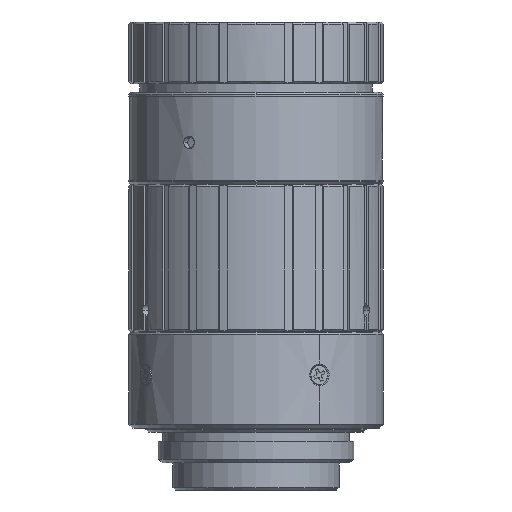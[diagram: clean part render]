
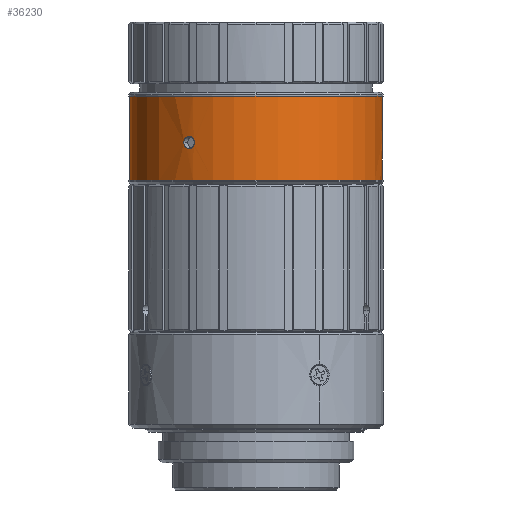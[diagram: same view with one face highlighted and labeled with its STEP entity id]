
A CAD part, front view. The second image highlights one B-rep face of the part: STEP entity #36230.
In plain terms, the highlighted cylindrical face has radius 16.35 mm (diameter 32.7 mm), a partial arc.
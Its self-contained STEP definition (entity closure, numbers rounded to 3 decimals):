
#35180=CARTESIAN_POINT('',(0.,0.,-60.467));
#35190=DIRECTION('',(0.,0.,1.));
#35200=DIRECTION('',(1.,0.,0.));
#35210=AXIS2_PLACEMENT_3D('',#35180,#35190,#35200);
#35220=CIRCLE('',#35210,16.35);
#35230=CARTESIAN_POINT('',(16.35,0.,
-60.467));
#35240=VERTEX_POINT('',#35230);
#35250=CARTESIAN_POINT('',(-16.35,0.,
-60.467));
#35260=VERTEX_POINT('',#35250);
#35270=EDGE_CURVE('',#35240,#35260,#35220,.T.);
#35340=CARTESIAN_POINT('',(0.,0.,-60.467));
#35350=DIRECTION('',(0.,0.,1.));
#35360=DIRECTION('',(1.,0.,0.));
#35370=AXIS2_PLACEMENT_3D('',#35340,#35350,#35360);
#35380=CYLINDRICAL_SURFACE('',#35370,16.35);
#35390=CARTESIAN_POINT('',(-16.35,0.,
-60.467));
#35400=DIRECTION('',(0.,0.,1.));
#35410=VECTOR('',#35400,1.);
#35420=LINE('',#35390,#35410);
#35430=CARTESIAN_POINT('',(-16.35,0.,
-49.567));
#35440=VERTEX_POINT('',#35430);
#35450=EDGE_CURVE('',#35260,#35440,#35420,.T.);
#35460=ORIENTED_EDGE('',*,*,#35450,.T.);
#35470=ORIENTED_EDGE('',*,*,#35270,.T.);
#35480=CARTESIAN_POINT('',(16.35,0.,
-60.467));
#35490=DIRECTION('',(0.,0.,1.));
#35500=VECTOR('',#35490,1.);
#35510=LINE('',#35480,#35500);
#35520=CARTESIAN_POINT('',(16.35,0.,
-55.028));
#35530=VERTEX_POINT('',#35520);
#35540=EDGE_CURVE('',#35240,#35530,#35510,.T.);
#35550=ORIENTED_EDGE('',*,*,#35540,.F.);
#35560=CARTESIAN_POINT('',(16.35,0.,
-53.907));
#35570=CARTESIAN_POINT('',(16.35,0.003,
-53.904));
#35580=CARTESIAN_POINT('',(16.35,0.006,
-53.9));
#35590=CARTESIAN_POINT('',(16.35,0.158,
-53.751));
#35600=CARTESIAN_POINT('',(16.347,0.366,
-53.666));
#35610=CARTESIAN_POINT('',(16.332,0.788,
-53.669));
#35620=CARTESIAN_POINT('',(16.32,0.994,
-53.758));
#35630=CARTESIAN_POINT('',(16.3,1.286,
-54.055));
#35640=CARTESIAN_POINT('',(16.292,1.371,
-54.265));
#35650=CARTESIAN_POINT('',(16.293,1.368,
-54.682));
#35660=CARTESIAN_POINT('',(16.3,1.281,
-54.889));
#35670=CARTESIAN_POINT('',(16.321,0.981,
-55.185));
#35680=CARTESIAN_POINT('',(16.333,0.773,
-55.269));
#35690=CARTESIAN_POINT('',(16.347,0.355,
-55.266));
#35700=CARTESIAN_POINT('',(16.35,0.148,
-55.179));
#35710=CARTESIAN_POINT('',(16.35,0.,
-55.028));
#35720=B_SPLINE_CURVE_WITH_KNOTS('',3,(#35560,#35570,#35580,#35590,
#35600,#35610,#35620,#35630,#35640,#35650,#35660,#35670,#35680,#35690,
#35700,#35710),.UNSPECIFIED.,.F.,.F.,(4,2,2,2,2,2,2,4),(0.,
0.004,0.17,0.336,0.502
,0.668,0.834,1.),.UNSPECIFIED.);
#35730=CARTESIAN_POINT('',(16.293,1.369,
-54.467));
#35740=VERTEX_POINT('',#35730);
#35750=EDGE_CURVE('',#35740,#35530,#35720,.T.);
#35760=ORIENTED_EDGE('',*,*,#35750,.T.);
#35770=CARTESIAN_POINT('',(16.35,0.,
-53.907));
#35780=VERTEX_POINT('',#35770);
#35790=EDGE_CURVE('',#35780,#35740,#35720,.T.);
#35800=ORIENTED_EDGE('',*,*,#35790,.T.);
#35810=CARTESIAN_POINT('',(16.35,0.,
-49.567));
#35820=VERTEX_POINT('',#35810);
#35830=EDGE_CURVE('',#35780,#35820,#35510,.T.);
#35840=ORIENTED_EDGE('',*,*,#35830,.F.);
#35850=CARTESIAN_POINT('',(0.,0.,-49.567));
#35860=DIRECTION('',(0.,0.,1.));
#35870=DIRECTION('',(1.,0.,0.));
#35880=AXIS2_PLACEMENT_3D('',#35850,#35860,#35870);
#35890=CIRCLE('',#35880,16.35);
#35900=EDGE_CURVE('',#35820,#35440,#35890,.T.);
#35910=ORIENTED_EDGE('',*,*,#35900,.F.);
#35920=EDGE_LOOP('',(#35910,#35840,#35800,#35760,#35550,#35470,#35460));
#35930=FACE_OUTER_BOUND('',#35920,.T.);
#35940=CARTESIAN_POINT('',(-7.975,14.273,
-54.679));
#35950=CARTESIAN_POINT('',(-7.975,14.273,
-54.256));
#35960=CARTESIAN_POINT('',(-8.051,14.231,
-54.049));
#35970=CARTESIAN_POINT('',(-8.307,14.083,
-53.754));
#35980=CARTESIAN_POINT('',(-8.487,13.976,
-53.667));
#35990=CARTESIAN_POINT('',(-8.841,13.755,
-53.667));
#36000=CARTESIAN_POINT('',(-9.015,13.641,
-53.752));
#36010=CARTESIAN_POINT('',(-9.262,13.474,
-54.051));
#36020=CARTESIAN_POINT('',(-9.332,13.425,
-54.258));
#36030=CARTESIAN_POINT('',(-9.332,13.425,
-54.676));
#36040=CARTESIAN_POINT('',(-9.261,13.475,
-54.885));
#36050=CARTESIAN_POINT('',(-9.017,13.64,
-55.18));
#36060=CARTESIAN_POINT('',(-8.844,13.753,
-55.267));
#36070=CARTESIAN_POINT('',(-8.486,13.977,
-55.268));
#36080=CARTESIAN_POINT('',(-8.308,14.083,
-55.181));
#36090=CARTESIAN_POINT('',(-8.052,14.231,
-54.886));
#36100=CARTESIAN_POINT('',(-7.975,14.273,
-54.679));
#36110=CARTESIAN_POINT('',(-7.975,14.273,
-54.256));
#36120=B_SPLINE_CURVE_WITH_KNOTS('',3,(#35940,#35950,#35960,#35970,
#35980,#35990,#36000,#36010,#36020,#36030,#36040,#36050,#36060,#36070,
#36080,#36090,#36100,#36110),.UNSPECIFIED.,.T.,.F.,(2,2,2,2,2,2,2,2,2,2,
2),(-0.125,0.,0.125,0.25,0.375,0.5,0.625,0.75,0.875,1.,1.125),
.UNSPECIFIED.);
#36130=CARTESIAN_POINT('',(-9.332,13.425,
-54.467));
#36140=VERTEX_POINT('',#36130);
#36150=CARTESIAN_POINT('',(-7.975,14.273,
-54.467));
#36160=VERTEX_POINT('',#36150);
#36170=EDGE_CURVE('',#36140,#36160,#36120,.T.);
#36180=ORIENTED_EDGE('',*,*,#36170,.T.);
#36190=EDGE_CURVE('',#36160,#36140,#36120,.T.);
#36200=ORIENTED_EDGE('',*,*,#36190,.T.);
#36210=EDGE_LOOP('',(#36200,#36180));
#36220=FACE_BOUND('',#36210,.T.);
#36230=ADVANCED_FACE('',(#35930,#36220),#35380,.T.);
